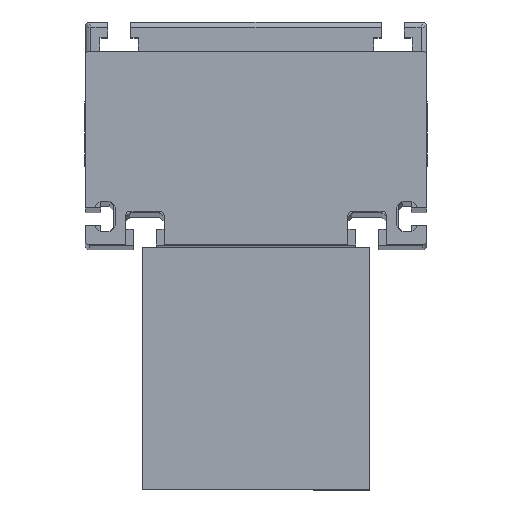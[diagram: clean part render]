
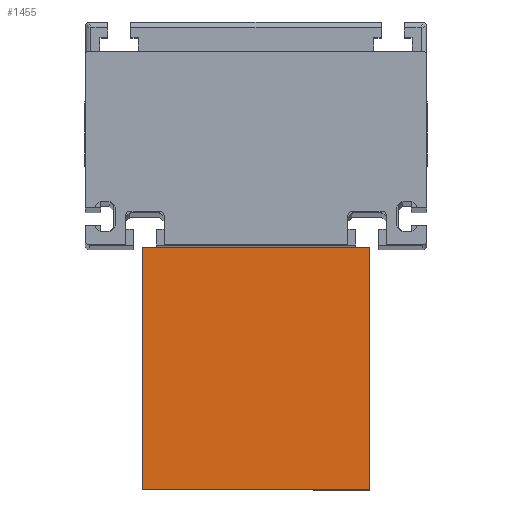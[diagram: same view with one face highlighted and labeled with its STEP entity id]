
A CAD part, top view. The second image highlights one B-rep face of the part: STEP entity #1455.
In plain terms, the highlighted planar face has unit normal (0, 0, 1) as drawn and (0, 0, -1) by its records, which use the part's own axes.
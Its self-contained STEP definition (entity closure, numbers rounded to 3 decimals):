
#3 = LINE ( 'NONE', #1646, #8841 ) ;
#1157 = VECTOR ( 'NONE', #8937, 1000. ) ;
#1455 = ADVANCED_FACE ( 'NONE', ( #11868 ), #4297, .F. ) ;
#1646 = CARTESIAN_POINT ( 'NONE',  ( 40., 0., -65. ) ) ;
#1706 = DIRECTION ( 'NONE',  ( -1., 0., 0. ) ) ;
#2236 = EDGE_CURVE ( 'NONE', #4431, #11732, #4386, .T. ) ;
#2250 = CARTESIAN_POINT ( 'NONE',  ( 40., 0., -65. ) ) ;
#3088 = EDGE_CURVE ( 'NONE', #5713, #4502, #9619, .T. ) ;
#3461 = DIRECTION ( 'NONE',  ( 0., 1., 0. ) ) ;
#4037 = VECTOR ( 'NONE', #6041, 1000. ) ;
#4142 = CARTESIAN_POINT ( 'NONE',  ( 40., 85., -65. ) ) ;
#4297 = PLANE ( 'NONE',  #7986 ) ;
#4386 = LINE ( 'NONE', #8090, #5669 ) ;
#4431 = VERTEX_POINT ( 'NONE', #8001 ) ;
#4502 = VERTEX_POINT ( 'NONE', #11104 ) ;
#4998 = LINE ( 'NONE', #4142, #1157 ) ;
#5669 = VECTOR ( 'NONE', #3461, 1000. ) ;
#5713 = VERTEX_POINT ( 'NONE', #8967 ) ;
#6041 = DIRECTION ( 'NONE',  ( 0., 1., 0. ) ) ;
#6171 = DIRECTION ( 'NONE',  ( 0., 0., 1. ) ) ;
#6710 = EDGE_CURVE ( 'NONE', #5713, #4431, #3, .T. ) ;
#7246 = CARTESIAN_POINT ( 'NONE',  ( 40., 0., -65. ) ) ;
#7955 = CARTESIAN_POINT ( 'NONE',  ( -40., 85., -65. ) ) ;
#7986 = AXIS2_PLACEMENT_3D ( 'NONE', #7246, #6171, #8972 ) ;
#8001 = CARTESIAN_POINT ( 'NONE',  ( -40., 0., -65. ) ) ;
#8090 = CARTESIAN_POINT ( 'NONE',  ( -40., 0., -65. ) ) ;
#8555 = ORIENTED_EDGE ( 'NONE', *, *, #2236, .T. ) ;
#8841 = VECTOR ( 'NONE', #1706, 1000. ) ;
#8868 = ORIENTED_EDGE ( 'NONE', *, *, #6710, .T. ) ;
#8931 = EDGE_LOOP ( 'NONE', ( #8555, #9964, #10742, #8868 ) ) ;
#8937 = DIRECTION ( 'NONE',  ( -1., 0., 0. ) ) ;
#8967 = CARTESIAN_POINT ( 'NONE',  ( 40., 0., -65. ) ) ;
#8972 = DIRECTION ( 'NONE',  ( 0., -1., 0. ) ) ;
#9619 = LINE ( 'NONE', #2250, #4037 ) ;
#9964 = ORIENTED_EDGE ( 'NONE', *, *, #11449, .F. ) ;
#10742 = ORIENTED_EDGE ( 'NONE', *, *, #3088, .F. ) ;
#11104 = CARTESIAN_POINT ( 'NONE',  ( 40., 85., -65. ) ) ;
#11449 = EDGE_CURVE ( 'NONE', #4502, #11732, #4998, .T. ) ;
#11732 = VERTEX_POINT ( 'NONE', #7955 ) ;
#11868 = FACE_OUTER_BOUND ( 'NONE', #8931, .T. ) ;
